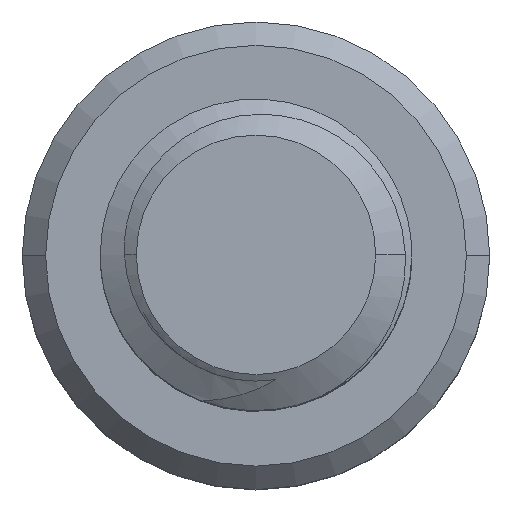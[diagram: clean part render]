
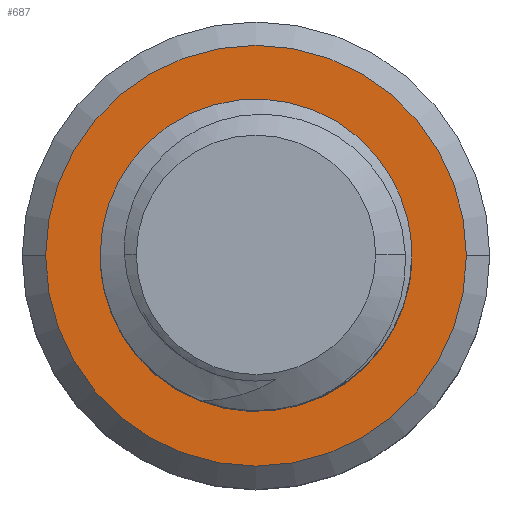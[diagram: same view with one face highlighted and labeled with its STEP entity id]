
A CAD part, top view. The second image highlights one B-rep face of the part: STEP entity #687.
In plain terms, the highlighted planar face has unit normal (0, 0, 1).
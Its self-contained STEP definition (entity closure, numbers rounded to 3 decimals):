
#75 = DIRECTION ( 'NONE',  ( -1., 0., 0. ) ) ;
#138 = CARTESIAN_POINT ( 'NONE',  ( 5.854, -0.87, -20. ) ) ;
#182 = CARTESIAN_POINT ( 'NONE',  ( 5.795, -1.402, -20. ) ) ;
#193 = CARTESIAN_POINT ( 'NONE',  ( 5.824, 0.19, -20. ) ) ;
#210 = ORIENTED_EDGE ( 'NONE', *, *, #3392, .T. ) ;
#243 = CARTESIAN_POINT ( 'NONE',  ( 0., 0., -20. ) ) ;
#254 = CARTESIAN_POINT ( 'NONE',  ( -1.896, 4.517, -20. ) ) ;
#278 = CARTESIAN_POINT ( 'NONE',  ( 0.001, -5.789, -20. ) ) ;
#313 = VERTEX_POINT ( 'NONE', #3662 ) ;
#314 = EDGE_CURVE ( 'NONE', #1803, #2214, #435, .T. ) ;
#389 = ORIENTED_EDGE ( 'NONE', *, *, #314, .T. ) ;
#400 = CARTESIAN_POINT ( 'NONE',  ( 0.535, -5.806, -20. ) ) ;
#435 = B_SPLINE_CURVE_WITH_KNOTS ( 'NONE', 3,
 ( #1270, #254, #2472, #1960, #2977, #1817, #1176, #2304, #3432, #1987, #2282, #2530, #1897, #1365, #1996, #1880, #3530, #1650, #3197, #1141, #906, #2863, #3002, #193, #2814, #138, #182, #1693, #1806 ),
 .UNSPECIFIED., .F., .F.,
 ( 4, 2, 2, 2, 2, 2, 2, 2, 2, 2, 2, 2, 1, 2, 4 ),
 ( 0., 0.001, 0.002, 0.002, 0.003, 0.005, 0.006, 0.007, 0.008, 0.009, 0.01, 0.01, 0.011, 0.012, 0.013 ),
 .UNSPECIFIED. ) ;
#511 = DIRECTION ( 'NONE',  ( -1., 0., 0. ) ) ;
#564 = EDGE_CURVE ( 'NONE', #1015, #2744, #2537, .T. ) ;
#626 = EDGE_CURVE ( 'NONE', #2744, #1803, #685, .T. ) ;
#685 = CIRCLE ( 'NONE', #1259, 4.863 ) ;
#687 = ADVANCED_FACE ( 'NONE', ( #1103, #1073 ), #2855, .F. ) ;
#727 = DIRECTION ( 'NONE',  ( 1., 0., 0. ) ) ;
#774 = CIRCLE ( 'NONE', #3138, 8.1 ) ;
#800 = DIRECTION ( 'NONE',  ( 0., 0., 1. ) ) ;
#864 = CARTESIAN_POINT ( 'NONE',  ( 0., 0., -20. ) ) ;
#867 = ORIENTED_EDGE ( 'NONE', *, *, #2048, .F. ) ;
#906 = CARTESIAN_POINT ( 'NONE',  ( 5.515, 1.487, -20. ) ) ;
#946 = DIRECTION ( 'NONE',  ( 0., 0., -1. ) ) ;
#983 = CARTESIAN_POINT ( 'NONE',  ( 0., 0., -20. ) ) ;
#1015 = VERTEX_POINT ( 'NONE', #1069 ) ;
#1034 = CARTESIAN_POINT ( 'NONE',  ( -2.948, -4.663, -20. ) ) ;
#1069 = CARTESIAN_POINT ( 'NONE',  ( 2.621, -5.397, -20. ) ) ;
#1073 = FACE_BOUND ( 'NONE', #3606, .T. ) ;
#1103 = FACE_OUTER_BOUND ( 'NONE', #1612, .T. ) ;
#1141 = CARTESIAN_POINT ( 'NONE',  ( 5.419, 1.735, -20. ) ) ;
#1176 = CARTESIAN_POINT ( 'NONE',  ( -0.12, 5.075, -20. ) ) ;
#1201 = CIRCLE ( 'NONE', #1230, 8.1 ) ;
#1230 = AXIS2_PLACEMENT_3D ( 'NONE', #3476, #1789, #75 ) ;
#1259 = AXIS2_PLACEMENT_3D ( 'NONE', #983, #946, #727 ) ;
#1270 = CARTESIAN_POINT ( 'NONE',  ( -2.125, 4.375, -20. ) ) ;
#1277 = CARTESIAN_POINT ( 'NONE',  ( -3.159, -4.493, -20. ) ) ;
#1339 = VERTEX_POINT ( 'NONE', #1948 ) ;
#1365 = CARTESIAN_POINT ( 'NONE',  ( 4.062, 3.697, -20. ) ) ;
#1590 = CARTESIAN_POINT ( 'NONE',  ( -3.549, -4.128, -20. ) ) ;
#1612 = EDGE_LOOP ( 'NONE', ( #210, #3210 ) ) ;
#1650 = CARTESIAN_POINT ( 'NONE',  ( 5.06, 2.453, -20. ) ) ;
#1675 = CARTESIAN_POINT ( 'NONE',  ( -3.729, -3.932, -20. ) ) ;
#1678 = DIRECTION ( 'NONE',  ( 1., 0., 0. ) ) ;
#1693 = CARTESIAN_POINT ( 'NONE',  ( 5.748, -1.668, -20. ) ) ;
#1789 = DIRECTION ( 'NONE',  ( 0., 0., 1. ) ) ;
#1803 = VERTEX_POINT ( 'NONE', #1972 ) ;
#1806 = CARTESIAN_POINT ( 'NONE',  ( 5.682, -1.929, -20. ) ) ;
#1817 = CARTESIAN_POINT ( 'NONE',  ( -0.384, 5.039, -20. ) ) ;
#1851 = ORIENTED_EDGE ( 'NONE', *, *, #564, .T. ) ;
#1880 = CARTESIAN_POINT ( 'NONE',  ( 4.608, 3.111, -20. ) ) ;
#1897 = CARTESIAN_POINT ( 'NONE',  ( 3.445, 4.211, -20. ) ) ;
#1948 = CARTESIAN_POINT ( 'NONE',  ( -8.1, 0., -20. ) ) ;
#1960 = CARTESIAN_POINT ( 'NONE',  ( -1.165, 4.84, -20. ) ) ;
#1972 = CARTESIAN_POINT ( 'NONE',  ( -2.125, 4.375, -20. ) ) ;
#1987 = CARTESIAN_POINT ( 'NONE',  ( 1.481, 5.027, -20. ) ) ;
#1996 = CARTESIAN_POINT ( 'NONE',  ( 4.256, 3.509, -20. ) ) ;
#2009 = CARTESIAN_POINT ( 'NONE',  ( -4.605, 1.563, -20. ) ) ;
#2020 = CARTESIAN_POINT ( 'NONE',  ( -4.717, 1.317, -20. ) ) ;
#2048 = EDGE_CURVE ( 'NONE', #1015, #2214, #2950, .T. ) ;
#2159 = CARTESIAN_POINT ( 'NONE',  ( -4.807, 1.065, -20. ) ) ;
#2204 = CARTESIAN_POINT ( 'NONE',  ( -4.947, 0.548, -20. ) ) ;
#2214 = VERTEX_POINT ( 'NONE', #2952 ) ;
#2216 = CARTESIAN_POINT ( 'NONE',  ( -4.061, -3.516, -20. ) ) ;
#2229 = CARTESIAN_POINT ( 'NONE',  ( -4.997, 0.282, -20. ) ) ;
#2243 = CARTESIAN_POINT ( 'NONE',  ( -5.052, -0.252, -20. ) ) ;
#2258 = CARTESIAN_POINT ( 'NONE',  ( -5.058, -0.518, -20. ) ) ;
#2279 = DIRECTION ( 'NONE',  ( 0., 0., 1. ) ) ;
#2282 = CARTESIAN_POINT ( 'NONE',  ( 1.997, 4.9, -20. ) ) ;
#2304 = CARTESIAN_POINT ( 'NONE',  ( 0.411, 5.106, -20. ) ) ;
#2308 = CARTESIAN_POINT ( 'NONE',  ( -5.028, -1.049, -20. ) ) ;
#2370 = AXIS2_PLACEMENT_3D ( 'NONE', #2868, #2883, #2835 ) ;
#2393 = AXIS2_PLACEMENT_3D ( 'NONE', #864, #800, #1678 ) ;
#2442 = CARTESIAN_POINT ( 'NONE',  ( -4.991, -1.316, -20. ) ) ;
#2472 = CARTESIAN_POINT ( 'NONE',  ( -1.658, 4.638, -20. ) ) ;
#2479 = CARTESIAN_POINT ( 'NONE',  ( -4.817, -2.105, -20. ) ) ;
#2488 = CARTESIAN_POINT ( 'NONE',  ( -4.619, -2.597, -20. ) ) ;
#2530 = CARTESIAN_POINT ( 'NONE',  ( 2.991, 4.487, -20. ) ) ;
#2537 = B_SPLINE_CURVE_WITH_KNOTS ( 'NONE', 3,
 ( #2810, #3291, #2799, #2751, #400, #278, #3101, #3090, #3081, #2822, #2714, #2589, #2554, #1034, #1277, #1590, #1675, #2216, #2543, #2488, #2479, #2442, #2308, #2258, #2243, #2229, #2204, #2159, #2020, #2009 ),
 .UNSPECIFIED., .F., .F.,
 ( 4, 2, 2, 2, 2, 2, 2, 2, 2, 2, 2, 2, 2, 2, 4 ),
 ( 0., 0.002, 0.002, 0.003, 0.004, 0.005, 0.006, 0.006, 0.007, 0.008, 0.01, 0.01, 0.011, 0.012, 0.013 ),
 .UNSPECIFIED. ) ;
#2543 = CARTESIAN_POINT ( 'NONE',  ( -4.214, -3.293, -20. ) ) ;
#2554 = CARTESIAN_POINT ( 'NONE',  ( -2.509, -4.968, -20. ) ) ;
#2589 = CARTESIAN_POINT ( 'NONE',  ( -2.281, -5.103, -20. ) ) ;
#2714 = CARTESIAN_POINT ( 'NONE',  ( -1.805, -5.34, -20. ) ) ;
#2744 = VERTEX_POINT ( 'NONE', #3490 ) ;
#2751 = CARTESIAN_POINT ( 'NONE',  ( 0.805, -5.796, -20. ) ) ;
#2799 = CARTESIAN_POINT ( 'NONE',  ( 1.602, -5.714, -20. ) ) ;
#2810 = CARTESIAN_POINT ( 'NONE',  ( 2.621, -5.397, -20. ) ) ;
#2814 = CARTESIAN_POINT ( 'NONE',  ( 5.875, -0.34, -20. ) ) ;
#2822 = CARTESIAN_POINT ( 'NONE',  ( -1.556, -5.442, -20. ) ) ;
#2835 = DIRECTION ( 'NONE',  ( -1., 0., 0. ) ) ;
#2855 = PLANE ( 'NONE',  #2370 ) ;
#2863 = CARTESIAN_POINT ( 'NONE',  ( 5.674, 0.98, -20. ) ) ;
#2868 = CARTESIAN_POINT ( 'NONE',  ( 0., 0., -20. ) ) ;
#2883 = DIRECTION ( 'NONE',  ( 0., 0., -1. ) ) ;
#2950 = CIRCLE ( 'NONE', #2393, 6. ) ;
#2952 = CARTESIAN_POINT ( 'NONE',  ( 5.682, -1.929, -20. ) ) ;
#2977 = CARTESIAN_POINT ( 'NONE',  ( -0.908, 4.921, -20. ) ) ;
#3002 = CARTESIAN_POINT ( 'NONE',  ( 5.736, 0.718, -20. ) ) ;
#3060 = ORIENTED_EDGE ( 'NONE', *, *, #626, .T. ) ;
#3081 = CARTESIAN_POINT ( 'NONE',  ( -1.045, -5.609, -20. ) ) ;
#3089 = EDGE_CURVE ( 'NONE', #313, #1339, #1201, .T. ) ;
#3090 = CARTESIAN_POINT ( 'NONE',  ( -0.786, -5.673, -20. ) ) ;
#3101 = CARTESIAN_POINT ( 'NONE',  ( -0.263, -5.764, -20. ) ) ;
#3138 = AXIS2_PLACEMENT_3D ( 'NONE', #243, #2279, #511 ) ;
#3197 = CARTESIAN_POINT ( 'NONE',  ( 5.192, 2.217, -20. ) ) ;
#3210 = ORIENTED_EDGE ( 'NONE', *, *, #3089, .T. ) ;
#3291 = CARTESIAN_POINT ( 'NONE',  ( 2.119, -5.591, -20. ) ) ;
#3392 = EDGE_CURVE ( 'NONE', #1339, #313, #774, .T. ) ;
#3432 = CARTESIAN_POINT ( 'NONE',  ( 0.679, 5.102, -20. ) ) ;
#3476 = CARTESIAN_POINT ( 'NONE',  ( 0., 0., -20. ) ) ;
#3490 = CARTESIAN_POINT ( 'NONE',  ( -4.605, 1.563, -20. ) ) ;
#3530 = CARTESIAN_POINT ( 'NONE',  ( 4.769, 2.9, -20. ) ) ;
#3606 = EDGE_LOOP ( 'NONE', ( #867, #1851, #3060, #389 ) ) ;
#3662 = CARTESIAN_POINT ( 'NONE',  ( 8.1, 0., -20. ) ) ;
